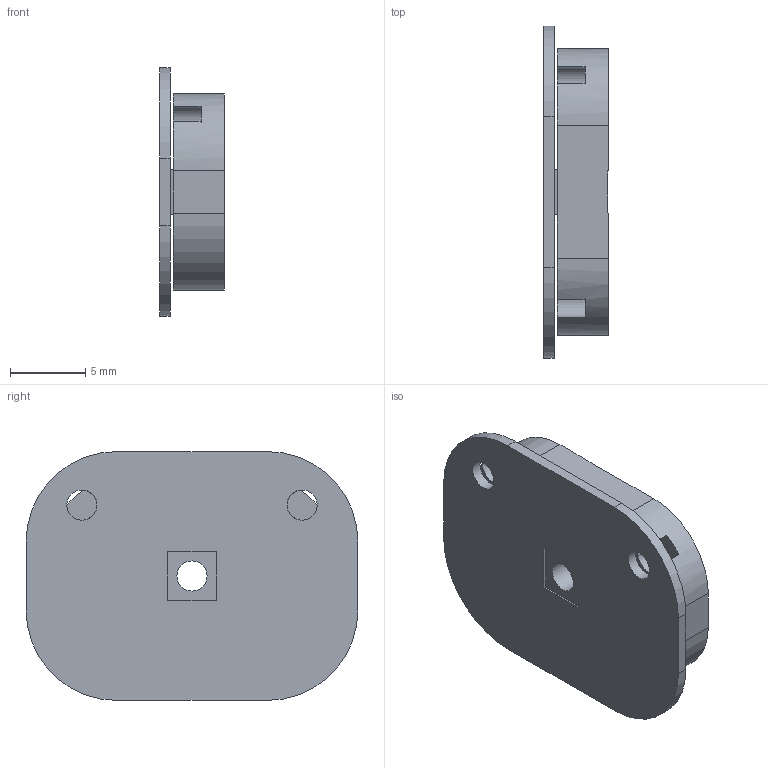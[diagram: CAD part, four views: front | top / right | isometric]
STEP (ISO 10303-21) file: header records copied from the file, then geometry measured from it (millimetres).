
FILE_DESCRIPTION(('Open CASCADE Model'),'2;1');
FILE_NAME('Open CASCADE Shape Model','2026-09-06T11:35:31',('Author'),( 'Open CASCADE'),'Open CASCADE STEP processor 7.7','Open CASCADE 7.7' ,'Unknown');
FILE_SCHEMA(('AUTOMOTIVE_DESIGN { 1 0 10303 214 1 1 1 1 }'));
Length unit declared in the file: millimetre
Products named in the file (1): Open CASCADE STEP translator 7.7 3
Bounding box: 4.3 x 22 x 16.5 mm (x, y, z)
Volume: 820.1 mm3; surface area: 1396.1 mm2
Topology: 1 solids, 1 shells, 48 faces, 129 edges, 86 vertices
Faces by surface type: plane 29, cylinder 17, sphere 2
Full cylindrical faces by diameter (mm): 2 x3
Entity records: 3377 total; most frequent: CARTESIAN_POINT 802, DIRECTION 480, LINE 263, VECTOR 263, ORIENTED_EDGE 258, PCURVE 258, DEFINITIONAL_REPRESENTATION 258, EDGE_CURVE 129
